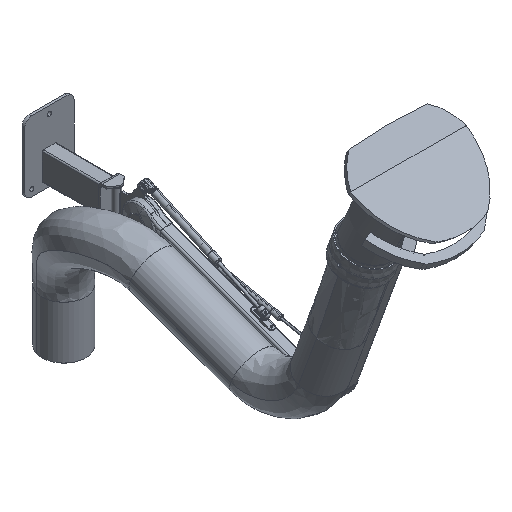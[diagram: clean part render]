
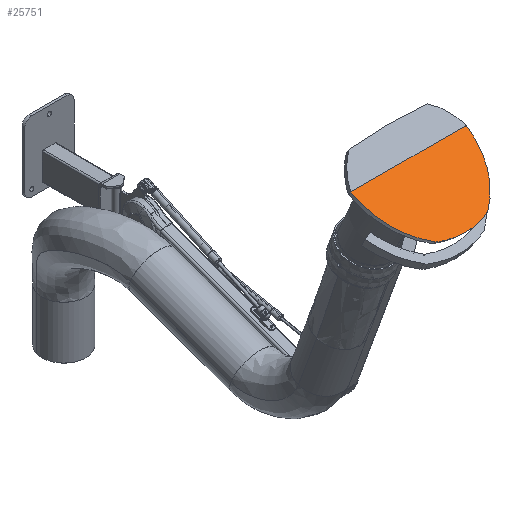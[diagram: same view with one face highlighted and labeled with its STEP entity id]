
A CAD part, isometric view. The second image highlights one B-rep face of the part: STEP entity #25751.
In plain terms, the highlighted planar face has unit normal (0, -0.522, 0.853) as drawn and (0, -0.989, 0.148) by its records, which use the part's own axes.
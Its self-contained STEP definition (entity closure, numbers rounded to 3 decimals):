
#24952=CARTESIAN_POINT('',(0.,-29.012,
-149.336));
#24953=CARTESIAN_POINT('',(-12.68,-29.012,
-149.336));
#24954=CARTESIAN_POINT('',(-37.618,-28.671,
-147.053));
#24955=CARTESIAN_POINT('',(-61.751,-27.681,
-140.431));
#24956=CARTESIAN_POINT('',(-73.607,-27.017,
-135.983));
#24975=CARTESIAN_POINT('',(73.607,-27.017,
-135.983));
#24976=CARTESIAN_POINT('',(61.751,-27.681,
-140.431));
#24977=CARTESIAN_POINT('',(37.618,-28.671,
-147.053));
#24978=CARTESIAN_POINT('',(12.68,-29.012,
-149.336));
#24979=CARTESIAN_POINT('',(0.,-29.012,
-149.336));
#25007=DIRECTION('',(-1.,0.,0.));
#25008=VECTOR('',#25007,328.337);
#25009=CARTESIAN_POINT('',(164.169,-0.75,
39.77));
#25010=LINE('',#25009,#25008);
#25020=CARTESIAN_POINT('',(164.169,-0.75,
39.77));
#25058=CARTESIAN_POINT('',(164.169,-0.75,
39.77));
#25059=CARTESIAN_POINT('',(164.126,-1.387,
35.506));
#25060=CARTESIAN_POINT('',(163.797,-2.658,
27.001));
#25061=CARTESIAN_POINT('',(162.535,-4.583,
14.122));
#25062=CARTESIAN_POINT('',(160.588,-6.44,
1.7));
#25063=CARTESIAN_POINT('',(157.891,-8.306,
-10.788));
#25064=CARTESIAN_POINT('',(154.508,-10.128,
-22.977));
#25065=CARTESIAN_POINT('',(150.409,-11.928,
-35.022));
#25066=CARTESIAN_POINT('',(145.592,-13.699,
-46.871));
#25067=CARTESIAN_POINT('',(140.083,-15.428,
-58.444));
#25068=CARTESIAN_POINT('',(133.88,-17.115,
-69.728));
#25069=CARTESIAN_POINT('',(127.036,-18.742,
-80.618));
#25070=CARTESIAN_POINT('',(119.577,-20.305,
-91.074));
#25071=CARTESIAN_POINT('',(111.56,-21.794,
-101.041));
#25072=CARTESIAN_POINT('',(102.809,-23.237,
-110.692));
#25073=CARTESIAN_POINT('',(93.697,-24.573,
-119.634));
#25074=CARTESIAN_POINT('',(83.805,-25.862,
-128.26));
#25075=CARTESIAN_POINT('',(77.051,-26.642,
-133.477));
#25076=CARTESIAN_POINT('',(73.607,-27.017,
-135.983));
#25356=CARTESIAN_POINT('',(-164.169,-0.75,
39.77));
#25400=CARTESIAN_POINT('',(-73.607,-27.017,
-135.983));
#25401=CARTESIAN_POINT('',(-77.046,-26.642,
-133.48));
#25402=CARTESIAN_POINT('',(-83.764,-25.867,
-128.29));
#25403=CARTESIAN_POINT('',(-93.509,-24.598,
-119.801));
#25404=CARTESIAN_POINT('',(-102.47,-23.288,
-111.037));
#25405=CARTESIAN_POINT('',(-111.069,-21.879,
-101.606));
#25406=CARTESIAN_POINT('',(-119.014,-20.415,
-91.808));
#25407=CARTESIAN_POINT('',(-126.436,-18.875,
-81.504));
#25408=CARTESIAN_POINT('',(-133.292,-17.263,
-70.719));
#25409=CARTESIAN_POINT('',(-139.54,-15.586,
-59.497));
#25410=CARTESIAN_POINT('',(-145.119,-13.858,
-47.938));
#25411=CARTESIAN_POINT('',(-150.023,-12.082,
-36.054));
#25412=CARTESIAN_POINT('',(-154.222,-10.266,
-23.905));
#25413=CARTESIAN_POINT('',(-157.702,-8.422,
-11.565));
#25414=CARTESIAN_POINT('',(-160.494,-6.519,
1.171));
#25415=CARTESIAN_POINT('',(-162.502,-4.627,
13.827));
#25416=CARTESIAN_POINT('',(-163.795,-2.67,
26.922));
#25417=CARTESIAN_POINT('',(-164.126,-1.39,
35.489));
#25418=CARTESIAN_POINT('',(-164.169,-0.75,
39.77));
#25582=VERTEX_POINT('',#25356);
#25598=CARTESIAN_POINT('',(0.,-29.012,
-149.336));
#25600=VERTEX_POINT('',#25598);
#25606=VERTEX_POINT('',#25020);
#25616=VERTEX_POINT('',#24975);
#25619=VERTEX_POINT('',#25400);
#25736=CARTESIAN_POINT('',(-179.061,-0.75,39.77));
#25737=DIRECTION('',(0.,0.989,-0.148));
#25738=DIRECTION('',(0.,0.148,0.989));
#25739=AXIS2_PLACEMENT_3D('',#25736,#25737,#25738);
#25740=PLANE('',#25739);
#25742=ORIENTED_EDGE('',*,*,#25741,.F.);
#25744=ORIENTED_EDGE('',*,*,#25743,.T.);
#25745=ORIENTED_EDGE('',*,*,#25719,.T.);
#25746=ORIENTED_EDGE('',*,*,#25631,.T.);
#25748=ORIENTED_EDGE('',*,*,#25747,.T.);
#25749=EDGE_LOOP('',(#25742,#25744,#25745,#25746,#25748));
#25750=FACE_OUTER_BOUND('',#25749,.F.);
#24957=B_SPLINE_CURVE_WITH_KNOTS('',3,(#24952,#24953,#24954,#24955,#24956),
.UNSPECIFIED.,.F.,.F.,(4,1,4),(0.,0.5,1.),.UNSPECIFIED.);
#24980=B_SPLINE_CURVE_WITH_KNOTS('',3,(#24975,#24976,#24977,#24978,#24979),
.UNSPECIFIED.,.F.,.F.,(4,1,4),(0.,0.5,1.),.UNSPECIFIED.);
#25077=B_SPLINE_CURVE_WITH_KNOTS('',3,(#25058,#25059,#25060,#25061,#25062,
#25063,#25064,#25065,#25066,#25067,#25068,#25069,#25070,#25071,#25072,#25073,
#25074,#25075,#25076),.UNSPECIFIED.,.F.,.F.,(4,1,1,1,1,1,1,1,1,1,1,1,1,1,1,1,4),
(0.,0.063,0.125,0.188,0.25,0.313,0.375,0.438,0.5,0.563,
0.625,0.688,0.75,0.813,0.875,0.938,1.),.UNSPECIFIED.);
#25419=B_SPLINE_CURVE_WITH_KNOTS('',3,(#25400,#25401,#25402,#25403,#25404,
#25405,#25406,#25407,#25408,#25409,#25410,#25411,#25412,#25413,#25414,#25415,
#25416,#25417,#25418),.UNSPECIFIED.,.F.,.F.,(4,1,1,1,1,1,1,1,1,1,1,1,1,1,1,1,4),
(0.,0.063,0.125,0.188,0.25,0.313,0.375,0.438,0.5,0.563,
0.625,0.688,0.75,0.813,0.875,0.938,1.),.UNSPECIFIED.);
#25631=EDGE_CURVE('',#25600,#25619,#24957,.T.);
#25719=EDGE_CURVE('',#25616,#25600,#24980,.T.);
#25741=EDGE_CURVE('',#25606,#25582,#25010,.T.);
#25743=EDGE_CURVE('',#25606,#25616,#25077,.T.);
#25747=EDGE_CURVE('',#25619,#25582,#25419,.T.);
#25751=ADVANCED_FACE('',(#25750),#25740,.F.);
